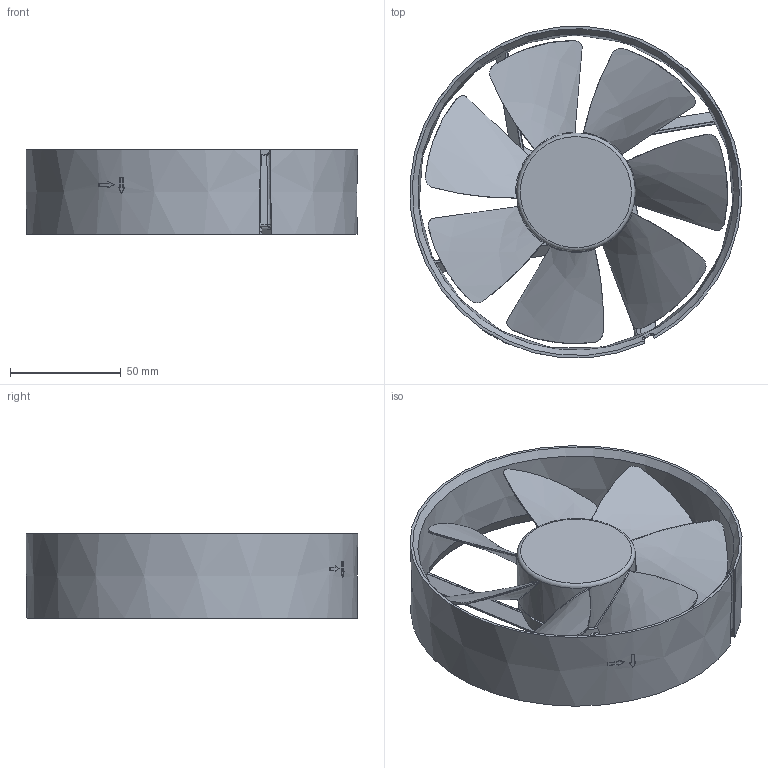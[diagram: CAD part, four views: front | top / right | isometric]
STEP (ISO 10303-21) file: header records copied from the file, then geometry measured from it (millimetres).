
FILE_DESCRIPTION(/* description */ (''),/* implementation_level */ '2;1');
FILE_NAME(/* name */ '',/* time_stamp */ '2017-07-18T08:49:54+08:00',/* author */ (''),/* organization */ (''),/* preprocessor_version */ 'ST-DEVELOPER v15',/* originating_system */ 'SIEMENS PLM Software NX 8.5',/* authorisation */ '');
FILE_SCHEMA (('AUTOMOTIVE_DESIGN { 1 0 10303 214 3 1 1 1 }'));
Length unit declared in the file: millimetre
Products named in the file (1): 12040
Bounding box: 149.72 x 149.62 x 38.2 mm (x, y, z)
Volume: 106664.9 mm3; surface area: 86286.5 mm2
Topology: 2 solids, 2 shells, 440 faces, 1136 edges, 714 vertices
Faces by surface type: bspline 161, plane 136, cylinder 59, cone 49, torus 31, extrusion 4
Full cylindrical faces by diameter (mm): 50.14 x1, 53.4 x1
Entity records: 25940 total; most frequent: CARTESIAN_POINT 16674, ORIENTED_EDGE 2246, DIRECTION 1462, EDGE_CURVE 1123, VERTEX_POINT 709, AXIS2_PLACEMENT_3D 603, B_SPLINE_CURVE_WITH_KNOTS 548, EDGE_LOOP 472
